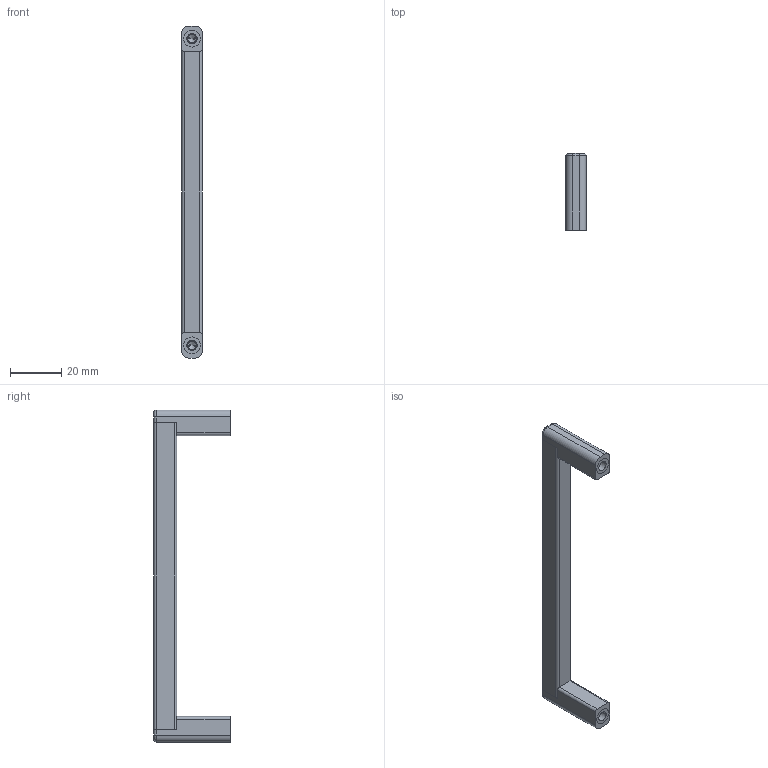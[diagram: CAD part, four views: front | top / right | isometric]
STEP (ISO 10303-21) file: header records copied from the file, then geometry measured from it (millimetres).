
FILE_DESCRIPTION (( 'STEP AP203' ), '1' );
FILE_NAME ('79350.W0120-1.step', '2018-04-28T14:53:21', ( '' ), ( '' ), 'SwSTEP 2.0', 'SolidWorks 2017', '' );
FILE_SCHEMA (( 'CONFIG_CONTROL_DESIGN' ));
Length unit declared in the file: millimetre
Products named in the file (3): Part1; 79350.W0120-1; Part3_79350.W0120-1
Assembly tree (3 placements, depth 2):
  79350.W0120-1
    Part3_79350.W0120-1
    Part1  x2
Bounding box: 8 x 30 x 130 mm (x, y, z)
Volume: 11362.6 mm3; surface area: 9146.6 mm2
Topology: 5 solids, 5 shells, 110 faces, 266 edges, 162 vertices
Faces by surface type: cylinder 46, plane 40, cone 12, torus 12
Entity records: 2190 total; most frequent: DIRECTION 355, CARTESIAN_POINT 318, ORIENTED_EDGE 302, EDGE_CURVE 151, AXIS2_PLACEMENT_3D 134, VERTEX_POINT 97, LINE 87, VECTOR 87
